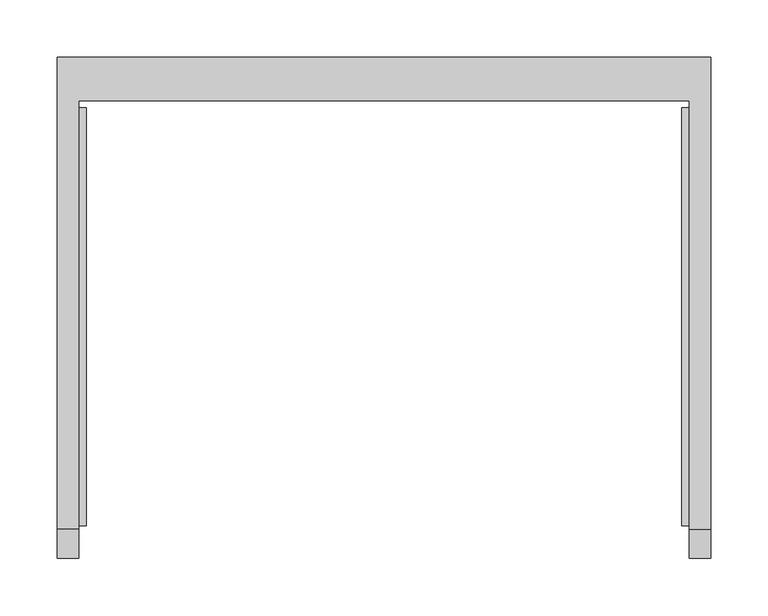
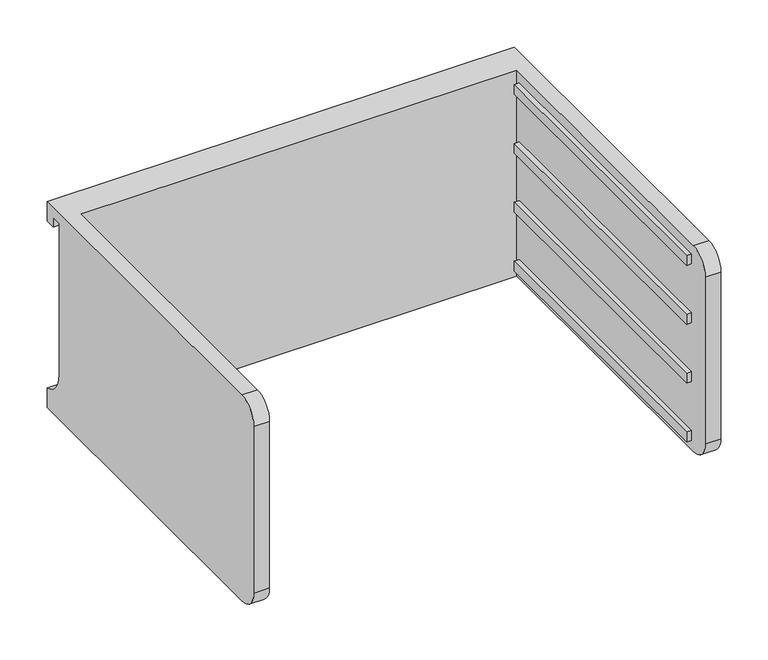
"""IFC4 building model written with IfcOpenShell, lengths in millimetres: furniture geometry."""

from ifc_helpers import new_model, si_unit, frame, origin, place, context, project, spatial, polyline, circle_curve, outline, extrude, source, transform, mapped, element, save
from ifc_brep_helpers import plane_surface, cylinder_surface, revolved_surface, advanced_brep


def furniture_30ac351e(model_context):
    return source(origin(), model_context, "Body", "SolidModel", [
        advanced_brep(
        [(-171.7622951, -331.6523397, 495.3), (-171.7622951, -357.0523397, 469.9), (-171.7622951, -357.0523397, 254.0), (-171.7622951, -331.6523397, 228.6), (-171.7622951, 43.0421197, 228.6), (-171.7622951, 43.0421197, 495.3), (-190.8122951, -331.6523397, 228.6), (-190.8122951, -357.0523397, 254.0), (-190.8122951, -357.0523397, 469.9), (-190.8122951, -331.6523397, 495.3), (-190.8122951, 81.0976603, 495.3), (-190.8122951, 81.0976603, 469.9), (-190.8122951, 68.4421197, 469.9), (-190.8122951, 68.4421197, 482.6), (-190.8122951, 55.7421197, 482.6), (-190.8122951, 55.7421197, 286.54502), (-190.8122951, 81.0976603, 254.0), (-190.8122951, 81.0976603, 228.6), (380.6877049, 81.0976603, 228.6), (380.6877049, -331.6523397, 228.6), (361.6377049, -331.6523397, 228.6), (361.6377049, 43.0421197, 228.6), (361.6377049, 43.0421197, 495.3), (361.6377049, -331.6523397, 495.3), (380.6877049, -331.6523397, 495.3), (380.6877049, 81.0976603, 495.3), (380.6877049, 81.0976603, 254.0), (380.6877049, 55.7421197, 286.54502), (380.6877049, 55.7421197, 482.6), (380.6877049, 68.4421197, 482.6), (380.6877049, 68.4421197, 469.9), (380.6877049, 81.0976603, 469.9), (380.6877049, -357.0523397, 469.9), (380.6877049, -357.0523397, 254.0), (361.6377049, -357.0523397, 254.0), (361.6377049, -357.0523397, 469.9)],
        [
            (0, 1, circle_curve(frame((-171.7622951, -331.6523397, 469.9), z_axis=(1.0, 0.0, 0.0), x_axis=(0.0, 0.0, 1.0)), 25.4)),
            (1, 2),
            (2, 3, circle_curve(frame((-171.7622951, -331.6523397, 254.0), z_axis=(1.0, 0.0, 0.0), x_axis=(0.0, 0.0, 1.0)), 25.4)),
            (3, 4),
            (4, 5),
            (5, 0),
            (6, 7, circle_curve(frame((-190.8122951, -331.6523397, 254.0), z_axis=(-1.0, 0.0, 0.0), x_axis=(0.0, 0.0, 1.0)), 25.4)),
            (7, 8),
            (8, 9, circle_curve(frame((-190.8122951, -331.6523397, 469.9), z_axis=(-1.0, 0.0, 0.0), x_axis=(0.0, 0.0, 1.0)), 25.4)),
            (9, 10),
            (10, 11),
            (11, 12),
            (12, 13),
            (13, 14),
            (14, 15),
            (15, 16, circle_curve(frame((-190.8122951, 89.3064162, 286.54502), z_axis=(1.0, 0.0, 0.0), x_axis=(0.0, 0.0, 1.0)), 33.5642965)),
            (16, 17),
            (17, 6),
            (0, 9),
            (8, 1),
            (7, 2),
            (6, 3),
            (17, 18),
            (18, 19),
            (19, 20),
            (20, 21),
            (21, 4),
            (5, 22),
            (22, 23),
            (23, 24),
            (24, 25),
            (25, 10),
            (18, 26),
            (26, 27, circle_curve(frame((380.6877049, 89.3064162, 286.54502), z_axis=(-1.0, 0.0, 0.0), x_axis=(0.0, 0.0, 1.0)), 33.5642965)),
            (27, 28),
            (28, 29),
            (29, 30),
            (30, 31),
            (31, 25),
            (24, 32, circle_curve(frame((380.6877049, -331.6523397, 469.9), z_axis=(1.0, 0.0, 0.0), x_axis=(0.0, 0.0, 1.0)), 25.4)),
            (32, 33),
            (33, 19, circle_curve(frame((380.6877049, -331.6523397, 254.0), z_axis=(1.0, 0.0, 0.0), x_axis=(0.0, 0.0, 1.0)), 25.4)),
            (16, 26),
            (15, 27),
            (14, 28),
            (13, 29),
            (12, 30),
            (11, 31),
            (21, 22),
            (20, 34, circle_curve(frame((361.6377049, -331.6523397, 254.0), z_axis=(-1.0, 0.0, 0.0), x_axis=(0.0, 0.0, 1.0)), 25.4)),
            (34, 35),
            (35, 23, circle_curve(frame((361.6377049, -331.6523397, 469.9), z_axis=(-1.0, 0.0, 0.0), x_axis=(0.0, 0.0, 1.0)), 25.4)),
            (35, 32),
            (34, 33),
        ],
        [
            plane_surface(frame((-171.7622951, -331.6523397, 495.3), z_axis=(1.0, 0.0, 0.0), x_axis=(0.0, -1.0, 0.0))),
            plane_surface(frame((-190.8122951, -331.6523397, 495.3), z_axis=(-1.0, 0.0, 0.0), x_axis=(0.0, 1.0, 0.0))),
            cylinder_surface(frame((-190.8122951, -331.6523397, 469.9), z_axis=(1.0, 0.0, 0.0), x_axis=(0.0, 0.0, 1.0)), 25.4),
            plane_surface(frame((-171.7622951, -357.0523397, 469.9), z_axis=(0.0, -1.0, 0.0), x_axis=(-1.0, 0.0, 0.0))),
            cylinder_surface(frame((-190.8122951, -331.6523397, 254.0), z_axis=(1.0, 0.0, 0.0), x_axis=(0.0, 0.0, 1.0)), 25.4),
            plane_surface(frame((-171.7622951, -331.6523397, 228.6), z_axis=(0.0, 0.0, -1.0), x_axis=(-1.0, 0.0, 0.0))),
            plane_surface(frame((-171.7622951, 43.0421197, 495.3), z_axis=(0.0, 0.0, 1.0), x_axis=(-1.0, 0.0, 0.0))),
            plane_surface(frame((380.6877049, 81.0976603, 254.0), z_axis=(1.0, 0.0, 0.0), x_axis=(0.0, 0.0, 1.0))),
            plane_surface(frame((380.6877049, 81.0976603, 228.6), z_axis=(0.0, 1.0, 0.0), x_axis=(-1.0, 0.0, 0.0))),
            revolved_surface(polyline([(-190.8122951, 89.3064162, 320.10931650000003), (380.68770489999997, 89.3064162, 320.10931650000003)]), (-190.8122951, 89.3064162, 286.54502), (-1.0, 0.0, 0.0)),
            plane_surface(frame((380.6877049, 55.7421197, 286.54502), z_axis=(0.0, 1.0, 0.0), x_axis=(-1.0, 0.0, 0.0))),
            plane_surface(frame((380.6877049, 55.7421197, 482.6), z_axis=(0.0, 0.0, -1.0), x_axis=(-1.0, 0.0, 0.0))),
            plane_surface(frame((380.6877049, 68.4421197, 482.6), z_axis=(0.0, -1.0, 0.0), x_axis=(-1.0, 0.0, 0.0))),
            plane_surface(frame((380.6877049, 68.4421197, 469.9), z_axis=(0.0, 0.0, -1.0), x_axis=(-1.0, 0.0, 0.0))),
            plane_surface(frame((380.6877049, 81.0976603, 469.9), z_axis=(0.0, 1.0, 0.0), x_axis=(-1.0, 0.0, 0.0))),
            plane_surface(frame((380.6877049, 43.0421197, 495.3), z_axis=(0.0, -1.0, 0.0), x_axis=(-1.0, 0.0, 0.0))),
            plane_surface(frame((361.6377049, -331.6523397, 495.3), z_axis=(-1.0, 0.0, 0.0), x_axis=(0.0, 1.0, 0.0))),
            cylinder_surface(frame((361.6377049, -331.6523397, 469.9), z_axis=(1.0, 0.0, 0.0), x_axis=(0.0, 0.0, 1.0)), 25.4),
            plane_surface(frame((380.6877049, -357.0523397, 469.9), z_axis=(0.0, -1.0, 0.0), x_axis=(-1.0, 0.0, 0.0))),
            cylinder_surface(frame((361.6377049, -331.6523397, 254.0), z_axis=(1.0, 0.0, 0.0), x_axis=(0.0, 0.0, 1.0)), 25.4),
        ],
        [
            (0, [[1, 2, 3, 4, 5, 6]]),
            (1, [[7, 8, 9, 10, 11, 12, 13, 14, 15, 16, 17, 18]]),
            (2, [[-1, 19, -9, 20]]),
            (3, [[-2, -20, -8, 21]]),
            (4, [[-3, -21, -7, 22]]),
            (5, [[-4, -22, -18, 23, 24, 25, 26, 27]]),
            (6, [[-6, 28, 29, 30, 31, 32, -10, -19]]),
            (7, [[-24, 33, 34, 35, 36, 37, 38, 39, -31, 40, 41, 42]]),
            (8, [[-33, -23, -17, 43]]),
            (9, [[-34, -43, -16, 44]]),
            (10, [[-35, -44, -15, 45]]),
            (11, [[-36, -45, -14, 46]]),
            (12, [[-37, -46, -13, 47]]),
            (13, [[-38, -47, -12, 48]]),
            (14, [[-39, -48, -11, -32]]),
            (15, [[-5, -27, 49, -28]]),
            (16, [[-29, -49, -26, 50, 51, 52]]),
            (17, [[-40, -30, -52, 53]]),
            (18, [[-41, -53, -51, 54]]),
            (19, [[-42, -54, -50, -25]]),
        ],
    ),
        extrude(outline(polyline([(355.2877049, -328.4773397), (355.2877049, 36.6921197), (361.6377049, 36.6921197), (361.6377049, -328.4773397), (355.2877049, -328.4773397)])), frame((0.0, 0.0, 317.5), z_axis=(0.0, 0.0, 1.0), x_axis=(1.0, 0.0, 0.0)), (0.0, 0.0, 1.0), 12.7),
        extrude(outline(polyline([(355.2877049, -328.4773397), (355.2877049, 36.6921197), (361.6377049, 36.6921197), (361.6377049, -328.4773397), (355.2877049, -328.4773397)])), frame((0.0, 0.0, 393.7), z_axis=(0.0, 0.0, 1.0), x_axis=(1.0, 0.0, 0.0)), (0.0, 0.0, 1.0), 12.7),
        extrude(outline(polyline([(355.2877049, -328.4773397), (355.2877049, 36.6921197), (361.6377049, 36.6921197), (361.6377049, -328.4773397), (355.2877049, -328.4773397)])), frame((0.0, 0.0, 469.9), z_axis=(0.0, 0.0, 1.0), x_axis=(1.0, 0.0, 0.0)), (0.0, 0.0, 1.0), 12.7),
        extrude(outline(polyline([(355.2877049, -328.4773397), (355.2877049, 36.6921197), (361.6377049, 36.6921197), (361.6377049, -328.4773397), (355.2877049, -328.4773397)])), frame((0.0, 0.0, 241.3), z_axis=(0.0, 0.0, 1.0), x_axis=(1.0, 0.0, 0.0)), (0.0, 0.0, 1.0), 12.7),
        extrude(outline(polyline([(-171.7622951, -328.4773397), (-171.7622951, 36.6921197), (-165.4122951, 36.6921197), (-165.4122951, -328.4773397), (-171.7622951, -328.4773397)])), frame((0.0, 0.0, 317.5), z_axis=(0.0, 0.0, 1.0), x_axis=(1.0, 0.0, 0.0)), (0.0, 0.0, 1.0), 12.7),
        extrude(outline(polyline([(-171.7622951, -328.4773397), (-171.7622951, 36.6921197), (-165.4122951, 36.6921197), (-165.4122951, -328.4773397), (-171.7622951, -328.4773397)])), frame((0.0, 0.0, 393.7), z_axis=(0.0, 0.0, 1.0), x_axis=(1.0, 0.0, 0.0)), (0.0, 0.0, 1.0), 12.7),
        extrude(outline(polyline([(-171.7622951, -328.4773397), (-171.7622951, 36.6921197), (-165.4122951, 36.6921197), (-165.4122951, -328.4773397), (-171.7622951, -328.4773397)])), frame((0.0, 0.0, 469.9), z_axis=(0.0, 0.0, 1.0), x_axis=(1.0, 0.0, 0.0)), (0.0, 0.0, 1.0), 12.7),
        extrude(outline(polyline([(-171.7622951, -328.4773397), (-171.7622951, 36.6921197), (-165.4122951, 36.6921197), (-165.4122951, -328.4773397), (-171.7622951, -328.4773397)])), frame((0.0, 0.0, 241.3), z_axis=(0.0, 0.0, 1.0), x_axis=(1.0, 0.0, 0.0)), (0.0, 0.0, 1.0), 12.7),
    ])


if __name__ == "__main__":
    model = new_model("IFC4")
    model_context = context("Model", 3, world=origin())
    ifc_project = project(units=[si_unit("LENGTHUNIT", "METRE", prefix="MILLI")], contexts=[model_context])
    site = spatial("IfcSite", under=ifc_project)
    building = spatial("IfcBuilding", under=site)
    placement = place(None, origin())
    furniture_shape = furniture_30ac351e(model_context)
    element("IfcFurniture", 1, ObjectType="HermanMiller_CoStruc_CO205_CFrame : 10\"H x 17\"D x 22\"W", at=placement, inside=building, context=model_context, shape_type="MappedRepresentation", body=[
        mapped(furniture_shape, transform((0.0, 0.0, 0.0), x_axis=(1.0, 0.0, 0.0), y_axis=(0.0, 1.0, 0.0), z_axis=(0.0, 0.0, 1.0))),
    ])
    save(model, "model.ifc")
